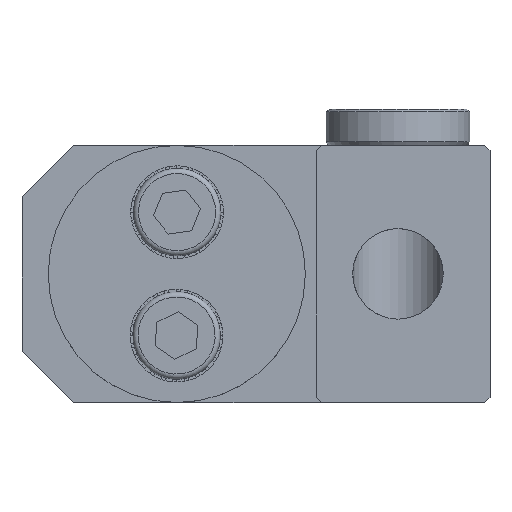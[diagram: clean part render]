
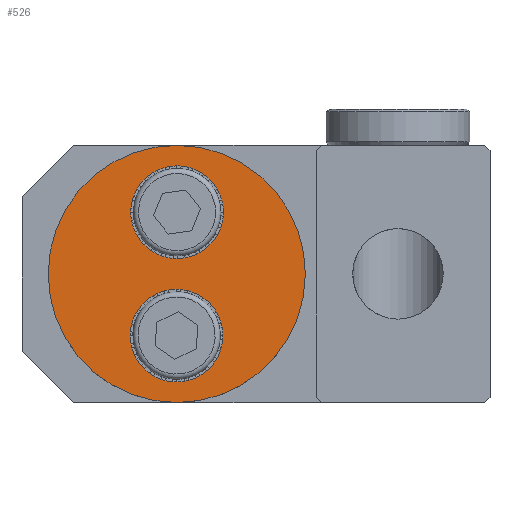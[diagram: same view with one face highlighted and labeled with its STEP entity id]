
A CAD part, top view. The second image highlights one B-rep face of the part: STEP entity #526.
In plain terms, the highlighted planar face has unit normal (0, 0, 1) as drawn and (0, 0, -1) by its records, which use the part's own axes.
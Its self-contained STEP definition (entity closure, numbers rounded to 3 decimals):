
#526=ADVANCED_FACE('',(#1208,#1209,#1210),#1211,.T.);
#1208=FACE_BOUND('',#2135,.T.);
#1209=FACE_BOUND('',#2136,.T.);
#1210=FACE_OUTER_BOUND('',#2137,.T.);
#1211=PLANE('',#2138);
#2135=EDGE_LOOP('',(#3132));
#2136=EDGE_LOOP('',(#3133));
#2137=EDGE_LOOP('',(#3134));
#2138=AXIS2_PLACEMENT_3D('',#3135,#3136,#3137);
#3132=ORIENTED_EDGE('',*,*,#5747,.F.);
#3133=ORIENTED_EDGE('',*,*,#5748,.F.);
#3134=ORIENTED_EDGE('',*,*,#5749,.T.);
#3135=CARTESIAN_POINT('',(0.,0.0,0.0));
#3136=DIRECTION('',(0.0,0.0,-1.0));
#3137=DIRECTION('',(-1.0,0.0,0.0));
#5747=EDGE_CURVE('',#6846,#6846,#6847,.T.);
#5748=EDGE_CURVE('',#6848,#6848,#6849,.T.);
#5749=EDGE_CURVE('',#6850,#6850,#6851,.T.);
#6846=VERTEX_POINT('',#8481);
#6847=CIRCLE('',#8482,2.6);
#6848=VERTEX_POINT('',#8483);
#6849=CIRCLE('',#8484,2.6);
#6850=VERTEX_POINT('',#8485);
#6851=CIRCLE('',#8486,12.5);
#8481=CARTESIAN_POINT('',(-3.4,0.0,0.0));
#8482=AXIS2_PLACEMENT_3D('',#10670,#10671,#10672);
#8483=CARTESIAN_POINT('',(8.6,0.0,0.0));
#8484=AXIS2_PLACEMENT_3D('',#10673,#10674,#10675);
#8485=CARTESIAN_POINT('',(12.5,0.0,0.0));
#8486=AXIS2_PLACEMENT_3D('',#10676,#10677,#10678);
#10670=CARTESIAN_POINT('',(-6.0,0.0,0.0));
#10671=DIRECTION('',(0.0,0.0,-1.0));
#10672=DIRECTION('',(1.0,0.0,0.0));
#10673=CARTESIAN_POINT('',(6.0,0.0,0.0));
#10674=DIRECTION('',(0.0,0.0,-1.0));
#10675=DIRECTION('',(1.0,0.0,0.0));
#10676=CARTESIAN_POINT('',(0.,0.0,0.0));
#10677=DIRECTION('',(0.0,0.0,-1.0));
#10678=DIRECTION('',(1.0,0.0,0.0));
